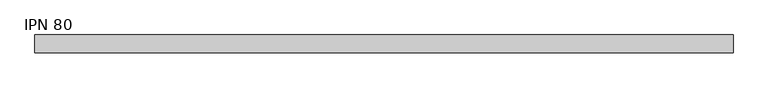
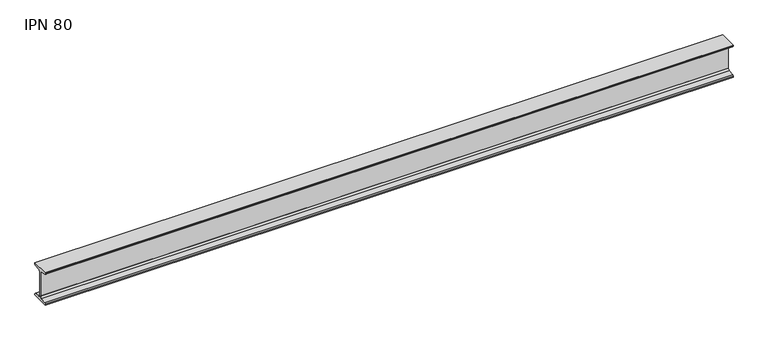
"""IFC4 building model written with IfcOpenShell, lengths in millimetres: beam geometry, IPN - Secciones en I con alas cónicas : IPN 80."""

from ifc_helpers import new_model, si_unit, point, frame, frame_2d, origin, place, context, project, spatial, polyline, circle_curve, trimmed, segment, composite_curve, outline, extrude, source, transform, mapped, element, save


def ipn_80_60352559(model_context):
    return source(origin(), model_context, "Body", "SweptSolid", [
        extrude(outline(composite_curve([segment(polyline([(21.0, 40.0), (21.0, 37.5704306)]), True, "CONTINUOUS"), segment(trimmed(circle_curve(frame_2d((18.7, 37.5704306)), 2.3), [point((21.0, 37.5704306))], [point((19.01889, 35.2926446))], False, "CARTESIAN"), True, "CONTINUOUS"), segment(polyline([(19.01889, 35.2926446), (5.3092734, 33.3732983)]), True, "CONTINUOUS"), segment(trimmed(circle_curve(frame_2d((5.85, 29.5109655)), 3.9), [point((5.3092734, 33.3732983))], [point((1.95, 29.5109655))], True, "CARTESIAN"), True, "CONTINUOUS"), segment(polyline([(1.95, 29.5109655), (1.95, -29.5109655)]), True, "CONTINUOUS"), segment(trimmed(circle_curve(frame_2d((5.85, -29.5109655)), 3.9), [point((1.95, -29.5109655))], [point((5.3092734, -33.3732983))], True, "CARTESIAN"), True, "CONTINUOUS"), segment(polyline([(5.3092734, -33.3732983), (19.01889, -35.2926446)]), True, "CONTINUOUS"), segment(trimmed(circle_curve(frame_2d((18.7, -37.5704306)), 2.3), [point((19.01889, -35.2926446))], [point((21.0, -37.5704306))], False, "CARTESIAN"), True, "CONTINUOUS"), segment(polyline([(21.0, -37.5704306), (21.0, -40.0), (-21.0, -40.0), (-21.0, -37.5704306)]), True, "CONTINUOUS"), segment(trimmed(circle_curve(frame_2d((-18.7, -37.5704306)), 2.3), [point((-21.0, -37.5704306))], [point((-19.01889, -35.2926446))], False, "CARTESIAN"), True, "CONTINUOUS"), segment(polyline([(-19.01889, -35.2926446), (-5.3092734, -33.3732983)]), True, "CONTINUOUS"), segment(trimmed(circle_curve(frame_2d((-5.85, -29.5109655)), 3.9), [point((-5.3092734, -33.3732983))], [point((-1.95, -29.5109655))], True, "CARTESIAN"), True, "CONTINUOUS"), segment(polyline([(-1.95, -29.5109655), (-1.95, 29.5109655)]), True, "CONTINUOUS"), segment(trimmed(circle_curve(frame_2d((-5.85, 29.5109655)), 3.9), [point((-1.95, 29.5109655))], [point((-5.3092734, 33.3732983))], True, "CARTESIAN"), True, "CONTINUOUS"), segment(polyline([(-5.3092734, 33.3732983), (-19.01889, 35.2926446)]), True, "CONTINUOUS"), segment(trimmed(circle_curve(frame_2d((-18.7, 37.5704306)), 2.3), [point((-19.01889, 35.2926446))], [point((-21.0, 37.5704306))], False, "CARTESIAN"), True, "CONTINUOUS"), segment(polyline([(-21.0, 37.5704306), (-21.0, 40.0), (21.0, 40.0)]), True, "CONTINUOUS")], self_intersect=False)), frame((-811.0, 0.0, 0.0), z_axis=(1.0, 0.0, 0.0), x_axis=(0.0, 1.0, 0.0)), (0.0, 0.0, 1.0), 1622.0),
    ])


if __name__ == "__main__":
    model = new_model("IFC4")
    model_context = context("Model", 3, world=origin())
    ifc_project = project(units=[si_unit("LENGTHUNIT", "METRE", prefix="MILLI")], contexts=[model_context])
    site = spatial("IfcSite", under=ifc_project)
    building = spatial("IfcBuilding", under=site)
    placement = place(None, origin())
    ipn_80_shape = ipn_80_60352559(model_context)
    element("IfcBeam", 1, ObjectType="IPN - Secciones en I con alas cónicas : IPN 80", at=placement, inside=building, context=model_context, shape_type="MappedRepresentation", body=[
        mapped(ipn_80_shape, transform((0.0, 0.0, 0.0), x_axis=(1.0, 0.0, 0.0), y_axis=(0.0, 1.0, 0.0), z_axis=(0.0, 0.0, 1.0))),
    ])
    save(model, "model.ifc")
